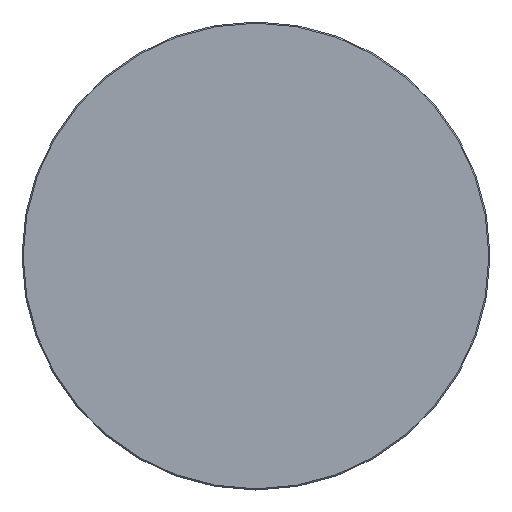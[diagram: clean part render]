
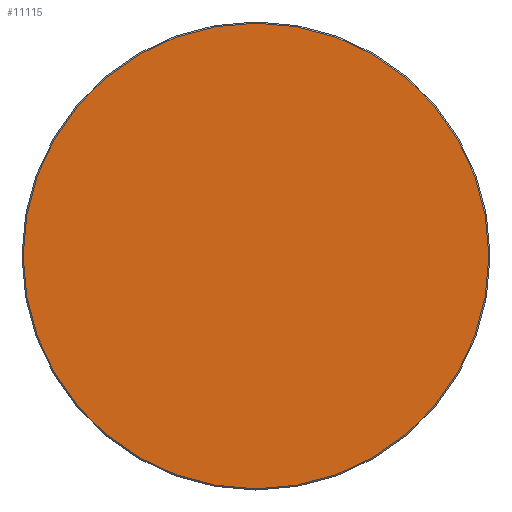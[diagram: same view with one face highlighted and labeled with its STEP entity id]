
A CAD part, top view. The second image highlights one B-rep face of the part: STEP entity #11115.
In plain terms, the highlighted planar face has unit normal (0, 0, 1).
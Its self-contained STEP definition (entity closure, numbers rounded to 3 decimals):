
#11040=CARTESIAN_POINT('',(0.,0.,20.));
#11041=DIRECTION('',(1.,0.,0.));
#11042=DIRECTION('',(0.,0.,1.));
#11043=AXIS2_PLACEMENT_3D('',#11040,#11042,#11041);
#11044=PLANE('',#11043);
#11045=CARTESIAN_POINT('',(-0.5,-298.5,20.));
#11046=VERTEX_POINT('',#11045);
#11047=CARTESIAN_POINT('',(0.5,-298.5,20.));
#11048=VERTEX_POINT('',#11047);
#11049=CARTESIAN_POINT('',(-0.5,-298.5,20.));
#11050=DIRECTION('',(1.,0.,0.));
#11051=VECTOR('',#11050,1.);
#11052=LINE('',#11049,#11051);
#11053=EDGE_CURVE('',#11046,#11048,#11052,.T.);
#11054=ORIENTED_EDGE('E105',*,*,#11053,.T.);
#11055=CARTESIAN_POINT('',(298.5,-0.5,20.));
#11056=VERTEX_POINT('',#11055);
#11057=CARTESIAN_POINT('',(0.5,-0.5,20.));
#11058=DIRECTION('',(0.,-1.,0.));
#11059=DIRECTION('',(0.,-0.,1.));
#11060=AXIS2_PLACEMENT_3D('',#11057,#11059,#11058);
#11061=CIRCLE('',#11060,298.);
#11062=EDGE_CURVE('',#11048,#11056,#11061,.T.);
#11063=ORIENTED_EDGE('E107',*,*,#11062,.T.);
#11064=CARTESIAN_POINT('',(298.5,0.5,20.));
#11065=VERTEX_POINT('',#11064);
#11066=CARTESIAN_POINT('',(298.5,-0.5,20.));
#11067=DIRECTION('',(0.,1.,0.));
#11068=VECTOR('',#11067,1.);
#11069=LINE('',#11066,#11068);
#11070=EDGE_CURVE('',#11056,#11065,#11069,.T.);
#11071=ORIENTED_EDGE('E109',*,*,#11070,.T.);
#11072=CARTESIAN_POINT('',(0.5,298.5,20.));
#11073=VERTEX_POINT('',#11072);
#11074=CARTESIAN_POINT('',(0.5,0.5,20.));
#11075=DIRECTION('',(1.,0.,0.));
#11076=DIRECTION('',(0.,0.,1.));
#11077=AXIS2_PLACEMENT_3D('',#11074,#11076,#11075);
#11078=CIRCLE('',#11077,298.);
#11079=EDGE_CURVE('',#11065,#11073,#11078,.T.);
#11080=ORIENTED_EDGE('E111',*,*,#11079,.T.);
#11081=CARTESIAN_POINT('',(-0.5,298.5,20.));
#11082=VERTEX_POINT('',#11081);
#11083=CARTESIAN_POINT('',(0.5,298.5,20.));
#11084=DIRECTION('',(-1.,0.,0.));
#11085=VECTOR('',#11084,1.);
#11086=LINE('',#11083,#11085);
#11087=EDGE_CURVE('',#11073,#11082,#11086,.T.);
#11088=ORIENTED_EDGE('E113',*,*,#11087,.T.);
#11089=CARTESIAN_POINT('',(-298.5,0.5,20.));
#11090=VERTEX_POINT('',#11089);
#11091=CARTESIAN_POINT('',(-0.5,0.5,20.));
#11092=DIRECTION('',(0.,1.,0.));
#11093=DIRECTION('',(0.,0.,1.));
#11094=AXIS2_PLACEMENT_3D('',#11091,#11093,#11092);
#11095=CIRCLE('',#11094,298.);
#11096=EDGE_CURVE('',#11082,#11090,#11095,.T.);
#11097=ORIENTED_EDGE('E115',*,*,#11096,.T.);
#11098=CARTESIAN_POINT('',(-298.5,-0.5,20.));
#11099=VERTEX_POINT('',#11098);
#11100=CARTESIAN_POINT('',(-298.5,0.5,20.));
#11101=DIRECTION('',(0.,-1.,0.));
#11102=VECTOR('',#11101,1.);
#11103=LINE('',#11100,#11102);
#11104=EDGE_CURVE('',#11090,#11099,#11103,.T.);
#11105=ORIENTED_EDGE('E117',*,*,#11104,.T.);
#11106=CARTESIAN_POINT('',(-0.5,-0.5,20.));
#11107=DIRECTION('',(-1.,0.,0.));
#11108=DIRECTION('',(0.,0.,1.));
#11109=AXIS2_PLACEMENT_3D('',#11106,#11108,#11107);
#11110=CIRCLE('',#11109,298.);
#11111=EDGE_CURVE('',#11099,#11046,#11110,.T.);
#11112=ORIENTED_EDGE('E119',*,*,#11111,.T.);
#11113=EDGE_LOOP('',(#11054,#11063,#11071,#11080,#11088,#11097,#11105,#11112));
#11114=FACE_OUTER_BOUND('',#11113,.T.);
#11115=ADVANCED_FACE('F2',(#11114),#11044,.T.);
